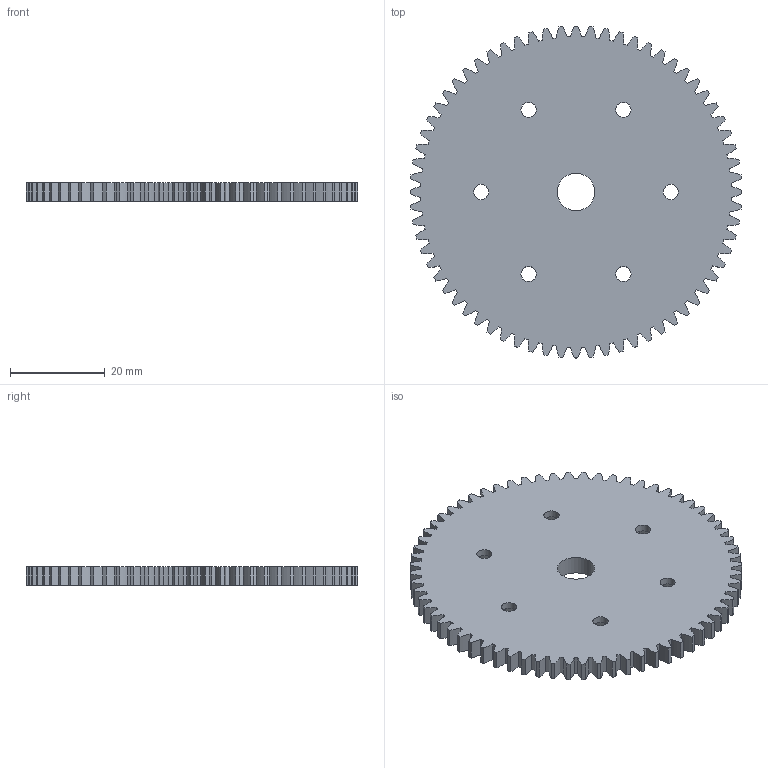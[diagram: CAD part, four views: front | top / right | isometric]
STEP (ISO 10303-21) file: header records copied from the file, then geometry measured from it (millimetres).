
FILE_DESCRIPTION(/* description */ (''),/* implementation_level */ '2;1');
FILE_NAME(/* name */ '\\192.168.3.8\kumagai\Develop\CAD\NakataOmni\DriveUnitR3\WheelGear.stp',/* time_stamp */ '2024-05-24T15:47:17+09:00',/* author */ ('kumagai'),/* organization */ (''),/* preprocessor_version */ 'ST-DEVELOPER v19',/* originating_system */ 'Autodesk Inventor 2023',/* authorisation */ '');
FILE_SCHEMA (('AUTOMOTIVE_DESIGN { 1 0 10303 214 3 1 1 }'));
Length unit declared in the file: millimetre
Products named in the file (1): 平歯車1
Bounding box: 70 x 70 x 4 mm (x, y, z)
Volume: 12355.4 mm3; surface area: 9539.5 mm2
Topology: 1 solids, 1 shells, 479 faces, 1305 edges, 846 vertices
Faces by surface type: cylinder 327, plane 104, cone 48
Full cylindrical faces by diameter (mm): 3.2 x6, 7.9 x1
Entity records: 15548 total; most frequent: DIRECTION 2895, CARTESIAN_POINT 2847, ORIENTED_EDGE 2610, EDGE_CURVE 1305, AXIS2_PLACEMENT_3D 1182, VERTEX_POINT 846, CIRCLE 702, LINE 531
